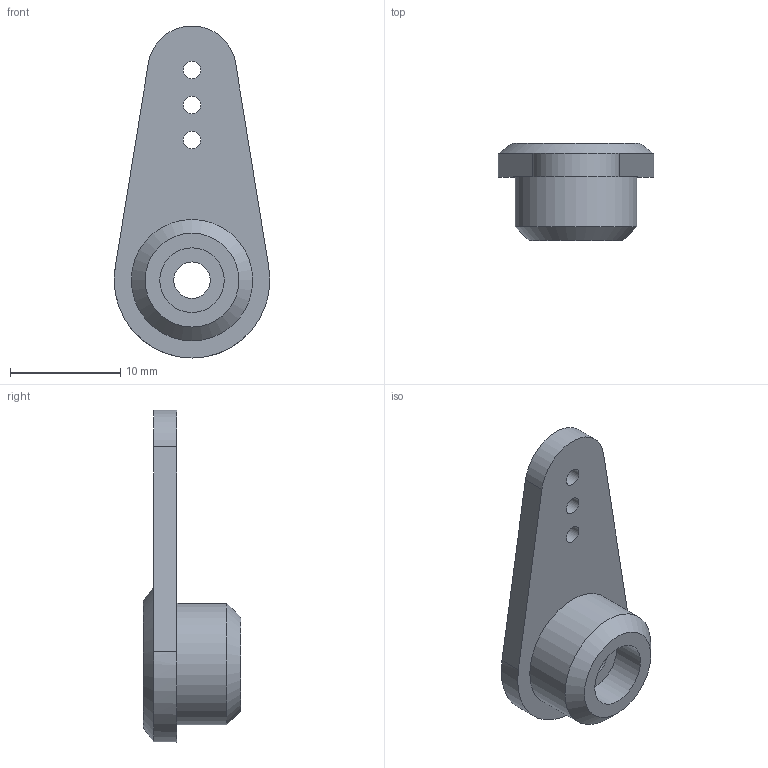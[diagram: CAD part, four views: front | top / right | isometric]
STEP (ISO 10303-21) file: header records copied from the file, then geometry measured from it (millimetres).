
FILE_DESCRIPTION(/* description */ ('SUPER STRENGTH LONG SERVO SMALL ARM'),/* implementation_level */ '2;1');
FILE_NAME(/* name */ 'C:\IV2022WorkFolder\Designs\Bob\VENDORS\MECHANICAL\Dubro\Arm_publish\670_S SUPER STRENGTH LONG SERVO SMALL ARM.stp',/* time_stamp */ '2022-08-04T11:48:49-05:00',/* author */ ('dotwibo2'),/* organization */ (''),/* preprocessor_version */ 'ST-DEVELOPER v18.1',/* originating_system */ 'Autodesk Inventor 2022',/* authorisation */ '');
FILE_SCHEMA (('CONFIG_CONTROL_DESIGN'));
Length unit declared in the file: millimetre
Products named in the file (1): 670 S
Bounding box: 14.11 x 8.8 x 30.09 mm (x, y, z)
Volume: 1038.8 mm3; surface area: 1126.4 mm2
Topology: 1 solids, 1 shells, 20 faces, 42 edges, 27 vertices
Faces by surface type: cylinder 9, plane 8, cone 3
Full cylindrical faces by diameter (mm): 1.587 x3, 3.3 x1, 5.85 x1, 6.5 x1, 11 x1
Entity records: 605 total; most frequent: DIRECTION 108, CARTESIAN_POINT 90, ORIENTED_EDGE 84, AXIS2_PLACEMENT_3D 45, EDGE_CURVE 42, EDGE_LOOP 31, VERTEX_POINT 27, CIRCLE 24
